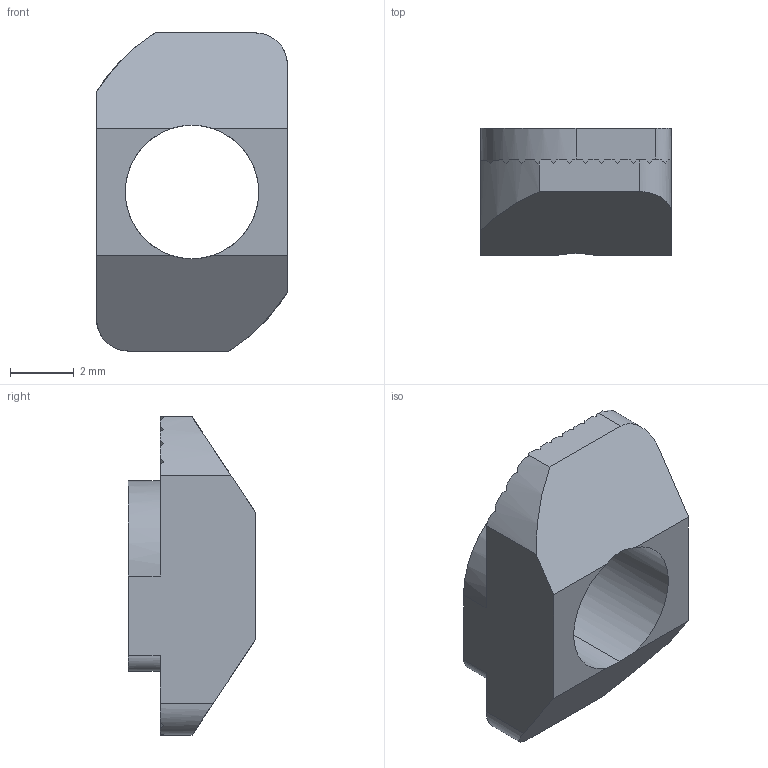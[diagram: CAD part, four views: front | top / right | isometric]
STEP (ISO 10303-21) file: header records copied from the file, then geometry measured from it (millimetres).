
FILE_DESCRIPTION (( 'STEP AP203' ), '1' );
FILE_NAME ('LIMA-RN5-62020.STEP', '2018-03-15T12:24:04', ( '' ), ( '' ), 'SwSTEP 2.0', 'SolidWorks 2013', '' );
FILE_SCHEMA (( 'CONFIG_CONTROL_DESIGN' ));
Length unit declared in the file: millimetre
Products named in the file (1): LIMA-RN5-62020
Bounding box: 6 x 4 x 10 mm (x, y, z)
Volume: 113.9 mm3; surface area: 224.3 mm2
Topology: 1 solids, 1 shells, 97 faces, 286 edges, 190 vertices
Faces by surface type: plane 85, cylinder 10, cone 2
Entity records: 3288 total; most frequent: CARTESIAN_POINT 754, ORIENTED_EDGE 572, DIRECTION 465, EDGE_CURVE 286, VERTEX_POINT 190, VECTOR 183, LINE 183, AXIS2_PLACEMENT_3D 141
